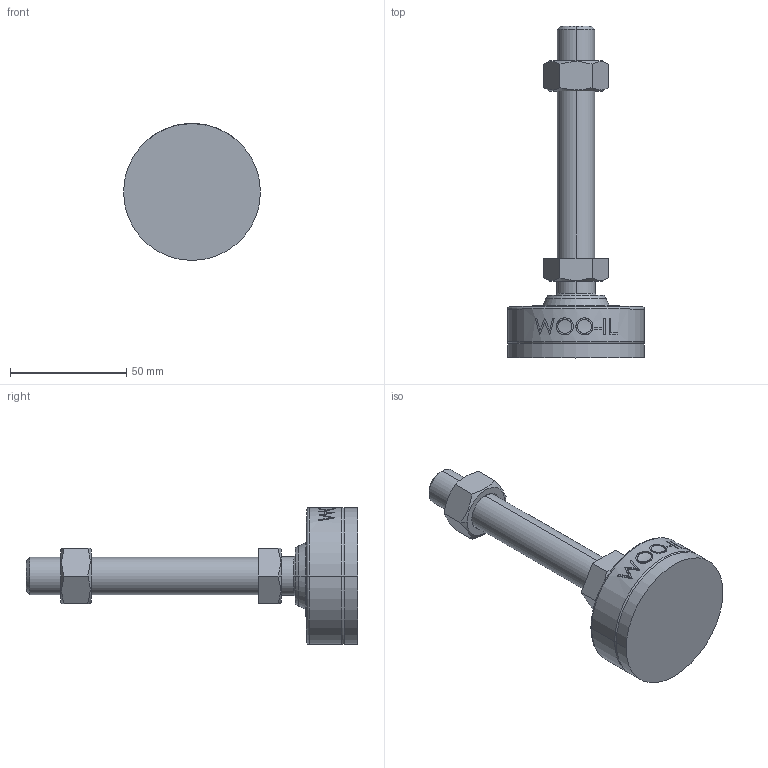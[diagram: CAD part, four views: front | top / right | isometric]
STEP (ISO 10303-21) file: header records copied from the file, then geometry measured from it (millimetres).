
FILE_DESCRIPTION (( 'STEP AP214' ), '1' );
FILE_NAME ('MFNR59-M16-100.step', '2021-02-22T09:06:39', ( '' ), ( '' ), 'SwSTEP 2.0', 'SolidWorks 2019', '' );
FILE_SCHEMA (( 'AUTOMOTIVE_DESIGN' ));
Length unit declared in the file: millimetre
Products named in the file (2): MFNR59-M16-100
Bounding box: 59 x 143 x 59 mm (x, y, z)
Volume: 93412.2 mm3; surface area: 18863.7 mm2
Topology: 2 solids, 2 shells, 105 faces, 245 edges, 156 vertices
Faces by surface type: plane 47, cone 18, cylinder 18, bspline 16, torus 4, sphere 2
Entity records: 4515 total; most frequent: CARTESIAN_POINT 2178, ORIENTED_EDGE 490, DIRECTION 437, EDGE_CURVE 245, AXIS2_PLACEMENT_3D 167, VERTEX_POINT 156, EDGE_LOOP 119, ADVANCED_FACE 105
